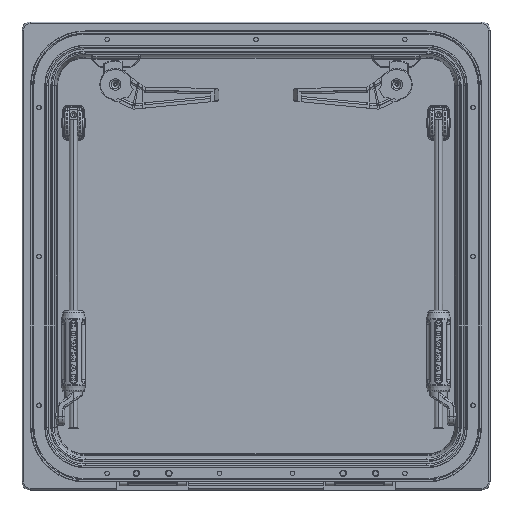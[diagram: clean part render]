
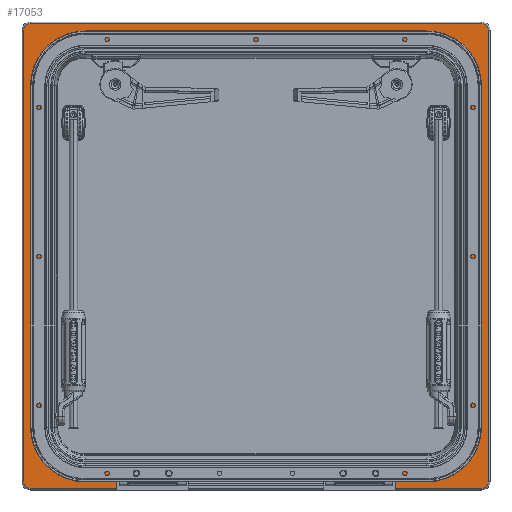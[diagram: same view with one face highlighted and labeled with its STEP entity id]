
A CAD part, front view. The second image highlights one B-rep face of the part: STEP entity #17053.
In plain terms, the highlighted planar face has unit normal (0, -1, 0).
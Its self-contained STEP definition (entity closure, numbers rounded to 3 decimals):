
#14416=DIRECTION('',(0.,0.,1.));
#14417=VECTOR('',#14416,22.);
#14418=CARTESIAN_POINT('',(-171.75,0.,-286.5));
#14419=LINE('',#14418,#14417);
#14420=DIRECTION('',(0.,0.,1.));
#14421=VECTOR('',#14420,22.);
#14422=CARTESIAN_POINT('',(171.75,0.,-286.5));
#14423=LINE('',#14422,#14421);
#14424=DIRECTION('',(1.,0.,0.));
#14425=VECTOR('',#14424,41.75);
#14426=CARTESIAN_POINT('',(171.75,0.,-264.5));
#14427=LINE('',#14426,#14425);
#14428=CARTESIAN_POINT('',(213.5,0.,-212.5));
#14429=DIRECTION('',(0.,-1.,0.));
#14430=DIRECTION('',(0.,0.,-1.));
#14431=AXIS2_PLACEMENT_3D('',#14428,#14429,#14430);
#14433=DIRECTION('',(0.,0.,1.));
#14434=VECTOR('',#14433,425.);
#14435=CARTESIAN_POINT('',(265.5,0.,-212.5));
#14436=LINE('',#14435,#14434);
#14437=CARTESIAN_POINT('',(213.5,0.,212.5));
#14438=DIRECTION('',(0.,-1.,0.));
#14439=DIRECTION('',(1.,0.,0.));
#14440=AXIS2_PLACEMENT_3D('',#14437,#14438,#14439);
#14442=DIRECTION('',(-1.,0.,0.));
#14443=VECTOR('',#14442,427.);
#14444=CARTESIAN_POINT('',(213.5,0.,264.5));
#14445=LINE('',#14444,#14443);
#14446=CARTESIAN_POINT('',(-213.5,0.,212.5));
#14447=DIRECTION('',(0.,-1.,0.));
#14448=DIRECTION('',(0.,0.,1.));
#14449=AXIS2_PLACEMENT_3D('',#14446,#14447,#14448);
#14451=DIRECTION('',(0.,0.,-1.));
#14452=VECTOR('',#14451,425.);
#14453=CARTESIAN_POINT('',(-265.5,0.,212.5));
#14454=LINE('',#14453,#14452);
#14455=CARTESIAN_POINT('',(-213.5,0.,-212.5));
#14456=DIRECTION('',(0.,-1.,0.));
#14457=DIRECTION('',(-1.,0.,0.));
#14458=AXIS2_PLACEMENT_3D('',#14455,#14456,#14457);
#14460=DIRECTION('',(1.,0.,0.));
#14461=VECTOR('',#14460,41.75);
#14462=CARTESIAN_POINT('',(-213.5,0.,-264.5));
#14463=LINE('',#14462,#14461);
#14977=DIRECTION('',(1.,0.,0.));
#14978=VECTOR('',#14977,106.75);
#14979=CARTESIAN_POINT('',(171.75,0.,-286.5));
#14980=LINE('',#14979,#14978);
#15017=DIRECTION('',(1.,0.,0.));
#15018=VECTOR('',#15017,106.75);
#15019=CARTESIAN_POINT('',(-278.5,0.,-286.5));
#15020=LINE('',#15019,#15018);
#15021=CARTESIAN_POINT('',(278.5,0.,-278.5));
#15022=DIRECTION('',(0.,-1.,0.));
#15023=DIRECTION('',(0.,0.,-1.));
#15024=AXIS2_PLACEMENT_3D('',#15021,#15022,#15023);
#15036=DIRECTION('',(0.,0.,1.));
#15037=VECTOR('',#15036,557.);
#15038=CARTESIAN_POINT('',(286.5,0.,-278.5));
#15039=LINE('',#15038,#15037);
#15049=CARTESIAN_POINT('',(278.5,0.,278.5));
#15050=DIRECTION('',(0.,-1.,0.));
#15051=DIRECTION('',(1.,0.,0.));
#15052=AXIS2_PLACEMENT_3D('',#15049,#15050,#15051);
#15064=DIRECTION('',(-1.,0.,0.));
#15065=VECTOR('',#15064,557.);
#15066=CARTESIAN_POINT('',(278.5,0.,286.5));
#15067=LINE('',#15066,#15065);
#15077=CARTESIAN_POINT('',(-278.5,0.,278.5));
#15078=DIRECTION('',(0.,-1.,0.));
#15079=DIRECTION('',(0.,0.,1.));
#15080=AXIS2_PLACEMENT_3D('',#15077,#15078,#15079);
#15092=DIRECTION('',(0.,0.,-1.));
#15093=VECTOR('',#15092,557.);
#15094=CARTESIAN_POINT('',(-286.5,0.,278.5));
#15095=LINE('',#15094,#15093);
#15105=CARTESIAN_POINT('',(-278.5,0.,-278.5));
#15106=DIRECTION('',(0.,-1.,0.));
#15107=DIRECTION('',(-1.,0.,0.));
#15108=AXIS2_PLACEMENT_3D('',#15105,#15106,#15107);
#16350=CARTESIAN_POINT('',(278.5,0.,286.5));
#16351=CARTESIAN_POINT('',(-278.5,0.,286.5));
#16352=VERTEX_POINT('',#16350);
#16353=VERTEX_POINT('',#16351);
#16358=CARTESIAN_POINT('',(-286.5,0.,278.5));
#16359=VERTEX_POINT('',#16358);
#16362=CARTESIAN_POINT('',(-286.5,0.,-278.5));
#16363=VERTEX_POINT('',#16362);
#16366=CARTESIAN_POINT('',(-278.5,0.,-286.5));
#16367=VERTEX_POINT('',#16366);
#16370=CARTESIAN_POINT('',(278.5,0.,-286.5));
#16371=CARTESIAN_POINT('',(286.5,0.,-278.5));
#16372=VERTEX_POINT('',#16370);
#16373=VERTEX_POINT('',#16371);
#16378=CARTESIAN_POINT('',(286.5,0.,278.5));
#16379=VERTEX_POINT('',#16378);
#16430=CARTESIAN_POINT('',(213.5,0.,-264.5));
#16431=CARTESIAN_POINT('',(265.5,0.,-212.5));
#16432=VERTEX_POINT('',#16430);
#16433=VERTEX_POINT('',#16431);
#16434=CARTESIAN_POINT('',(265.5,0.,212.5));
#16435=VERTEX_POINT('',#16434);
#16436=CARTESIAN_POINT('',(213.5,0.,264.5));
#16437=VERTEX_POINT('',#16436);
#16438=CARTESIAN_POINT('',(-213.5,0.,264.5));
#16439=VERTEX_POINT('',#16438);
#16440=CARTESIAN_POINT('',(-265.5,0.,212.5));
#16441=VERTEX_POINT('',#16440);
#16442=CARTESIAN_POINT('',(-265.5,0.,-212.5));
#16443=VERTEX_POINT('',#16442);
#16444=CARTESIAN_POINT('',(-213.5,0.,-264.5));
#16445=VERTEX_POINT('',#16444);
#16446=CARTESIAN_POINT('',(171.75,0.,-286.5));
#16447=CARTESIAN_POINT('',(171.75,0.,-264.5));
#16448=VERTEX_POINT('',#16446);
#16449=VERTEX_POINT('',#16447);
#16462=CARTESIAN_POINT('',(-171.75,0.,-286.5));
#16463=CARTESIAN_POINT('',(-171.75,0.,-264.5));
#16464=VERTEX_POINT('',#16462);
#16465=VERTEX_POINT('',#16463);
#17006=CARTESIAN_POINT('',(0.,0.,0.));
#17007=DIRECTION('',(0.,1.,0.));
#17008=DIRECTION('',(1.,0.,0.));
#17009=AXIS2_PLACEMENT_3D('',#17006,#17007,#17008);
#17010=PLANE('',#17009);
#17012=ORIENTED_EDGE('',*,*,#17011,.F.);
#17014=ORIENTED_EDGE('',*,*,#17013,.F.);
#17016=ORIENTED_EDGE('',*,*,#17015,.F.);
#17018=ORIENTED_EDGE('',*,*,#17017,.F.);
#17020=ORIENTED_EDGE('',*,*,#17019,.F.);
#17022=ORIENTED_EDGE('',*,*,#17021,.F.);
#17024=ORIENTED_EDGE('',*,*,#17023,.F.);
#17026=ORIENTED_EDGE('',*,*,#17025,.F.);
#17028=ORIENTED_EDGE('',*,*,#17027,.F.);
#17030=ORIENTED_EDGE('',*,*,#17029,.F.);
#17032=ORIENTED_EDGE('',*,*,#17031,.T.);
#17034=ORIENTED_EDGE('',*,*,#17033,.T.);
#17036=ORIENTED_EDGE('',*,*,#17035,.T.);
#17038=ORIENTED_EDGE('',*,*,#17037,.T.);
#17040=ORIENTED_EDGE('',*,*,#17039,.T.);
#17042=ORIENTED_EDGE('',*,*,#17041,.T.);
#17044=ORIENTED_EDGE('',*,*,#17043,.T.);
#17046=ORIENTED_EDGE('',*,*,#17045,.T.);
#17048=ORIENTED_EDGE('',*,*,#17047,.T.);
#17050=ORIENTED_EDGE('',*,*,#17049,.T.);
#17051=EDGE_LOOP('',(#17012,#17014,#17016,#17018,#17020,#17022,#17024,#17026,
#17028,#17030,#17032,#17034,#17036,#17038,#17040,#17042,#17044,#17046,#17048,
#17050));
#17052=FACE_OUTER_BOUND('',#17051,.F.);
#17053=ADVANCED_FACE('',(#17052),#17010,.F.);
#14432=CIRCLE('',#14431,52.);
#14441=CIRCLE('',#14440,52.);
#14450=CIRCLE('',#14449,52.);
#14459=CIRCLE('',#14458,52.);
#15025=CIRCLE('',#15024,8.);
#15053=CIRCLE('',#15052,8.);
#15081=CIRCLE('',#15080,8.);
#15109=CIRCLE('',#15108,8.);
#17011=EDGE_CURVE('',#16464,#16465,#14419,.T.);
#17013=EDGE_CURVE('',#16367,#16464,#15020,.T.);
#17015=EDGE_CURVE('',#16363,#16367,#15109,.T.);
#17017=EDGE_CURVE('',#16359,#16363,#15095,.T.);
#17019=EDGE_CURVE('',#16353,#16359,#15081,.T.);
#17021=EDGE_CURVE('',#16352,#16353,#15067,.T.);
#17023=EDGE_CURVE('',#16379,#16352,#15053,.T.);
#17025=EDGE_CURVE('',#16373,#16379,#15039,.T.);
#17027=EDGE_CURVE('',#16372,#16373,#15025,.T.);
#17029=EDGE_CURVE('',#16448,#16372,#14980,.T.);
#17031=EDGE_CURVE('',#16448,#16449,#14423,.T.);
#17033=EDGE_CURVE('',#16449,#16432,#14427,.T.);
#17035=EDGE_CURVE('',#16432,#16433,#14432,.T.);
#17037=EDGE_CURVE('',#16433,#16435,#14436,.T.);
#17039=EDGE_CURVE('',#16435,#16437,#14441,.T.);
#17041=EDGE_CURVE('',#16437,#16439,#14445,.T.);
#17043=EDGE_CURVE('',#16439,#16441,#14450,.T.);
#17045=EDGE_CURVE('',#16441,#16443,#14454,.T.);
#17047=EDGE_CURVE('',#16443,#16445,#14459,.T.);
#17049=EDGE_CURVE('',#16445,#16465,#14463,.T.);
